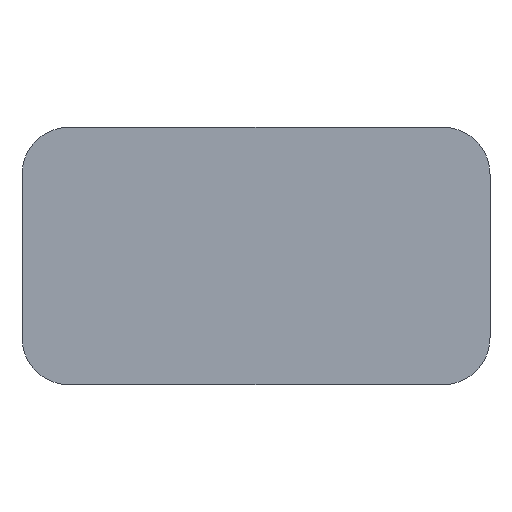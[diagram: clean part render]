
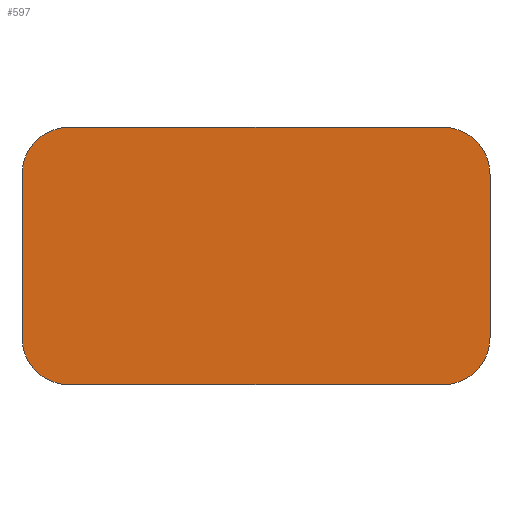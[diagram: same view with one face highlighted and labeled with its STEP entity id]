
A CAD part, front view. The second image highlights one B-rep face of the part: STEP entity #597.
In plain terms, the highlighted planar face has unit normal (0, -1, 0).
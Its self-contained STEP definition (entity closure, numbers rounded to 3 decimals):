
#7 = EDGE_LOOP ( 'NONE', ( #694, #297, #90, #897, #350, #529, #685, #186 ) ) ;
#16 = VERTEX_POINT ( 'NONE', #475 ) ;
#21 = EDGE_CURVE ( 'NONE', #58, #222, #907, .T. ) ;
#52 = AXIS2_PLACEMENT_3D ( 'NONE', #615, #769, #557 ) ;
#58 = VERTEX_POINT ( 'NONE', #189 ) ;
#77 = EDGE_CURVE ( 'NONE', #16, #102, #632, .T. ) ;
#90 = ORIENTED_EDGE ( 'NONE', *, *, #156, .F. ) ;
#93 = EDGE_CURVE ( 'NONE', #16, #668, #829, .T. ) ;
#101 = DIRECTION ( 'NONE',  ( 0., 0., -1. ) ) ;
#102 = VERTEX_POINT ( 'NONE', #243 ) ;
#112 = CARTESIAN_POINT ( 'NONE',  ( -10., -20., 5.5 ) ) ;
#156 = EDGE_CURVE ( 'NONE', #58, #668, #348, .T. ) ;
#169 = CARTESIAN_POINT ( 'NONE',  ( -8., -20., 3.5 ) ) ;
#172 = DIRECTION ( 'NONE',  ( 0., -1., 0. ) ) ;
#186 = ORIENTED_EDGE ( 'NONE', *, *, #650, .T. ) ;
#189 = CARTESIAN_POINT ( 'NONE',  ( -10., -20., -3.5 ) ) ;
#200 = LINE ( 'NONE', #495, #517 ) ;
#215 = PLANE ( 'NONE',  #665 ) ;
#222 = VERTEX_POINT ( 'NONE', #366 ) ;
#237 = DIRECTION ( 'NONE',  ( 0., 0., -1. ) ) ;
#243 = CARTESIAN_POINT ( 'NONE',  ( 8., -20., 5.5 ) ) ;
#258 = DIRECTION ( 'NONE',  ( 1., 0., 0. ) ) ;
#263 = CARTESIAN_POINT ( 'NONE',  ( 10., -20., 5.5 ) ) ;
#297 = ORIENTED_EDGE ( 'NONE', *, *, #93, .T. ) ;
#309 = DIRECTION ( 'NONE',  ( 0., -1., 0. ) ) ;
#348 = LINE ( 'NONE', #112, #399 ) ;
#350 = ORIENTED_EDGE ( 'NONE', *, *, #759, .F. ) ;
#366 = CARTESIAN_POINT ( 'NONE',  ( -8., -20., -5.5 ) ) ;
#387 = CARTESIAN_POINT ( 'NONE',  ( 8., -20., 3.5 ) ) ;
#399 = VECTOR ( 'NONE', #816, 1000. ) ;
#415 = EDGE_CURVE ( 'NONE', #649, #786, #863, .T. ) ;
#425 = DIRECTION ( 'NONE',  ( -1., 0., 0. ) ) ;
#429 = CARTESIAN_POINT ( 'NONE',  ( 8., -20., -3.5 ) ) ;
#461 = CARTESIAN_POINT ( 'NONE',  ( 10., -20., 3.5 ) ) ;
#464 = VECTOR ( 'NONE', #258, 1000. ) ;
#475 = CARTESIAN_POINT ( 'NONE',  ( -8., -20., 5.5 ) ) ;
#495 = CARTESIAN_POINT ( 'NONE',  ( -10., -20., -5.5 ) ) ;
#517 = VECTOR ( 'NONE', #425, 1000. ) ;
#525 = EDGE_CURVE ( 'NONE', #728, #786, #544, .T. ) ;
#529 = ORIENTED_EDGE ( 'NONE', *, *, #525, .T. ) ;
#531 = AXIS2_PLACEMENT_3D ( 'NONE', #169, #776, #689 ) ;
#544 = CIRCLE ( 'NONE', #695, 2. ) ;
#557 = DIRECTION ( 'NONE',  ( 0., 0., -1. ) ) ;
#590 = CARTESIAN_POINT ( 'NONE',  ( 10., -20., -3.5 ) ) ;
#597 = ADVANCED_FACE ( 'NONE', ( #988 ), #215, .T. ) ;
#607 = AXIS2_PLACEMENT_3D ( 'NONE', #387, #309, #687 ) ;
#615 = CARTESIAN_POINT ( 'NONE',  ( -8., -20., -3.5 ) ) ;
#617 = VECTOR ( 'NONE', #101, 1000. ) ;
#632 = LINE ( 'NONE', #847, #464 ) ;
#649 = VERTEX_POINT ( 'NONE', #461 ) ;
#650 = EDGE_CURVE ( 'NONE', #649, #102, #817, .T. ) ;
#658 = DIRECTION ( 'NONE',  ( 0., -1., 0. ) ) ;
#665 = AXIS2_PLACEMENT_3D ( 'NONE', #684, #172, #237 ) ;
#667 = DIRECTION ( 'NONE',  ( 0., 0., -1. ) ) ;
#668 = VERTEX_POINT ( 'NONE', #926 ) ;
#684 = CARTESIAN_POINT ( 'NONE',  ( 0., -20., 0. ) ) ;
#685 = ORIENTED_EDGE ( 'NONE', *, *, #415, .F. ) ;
#687 = DIRECTION ( 'NONE',  ( 0., 0., -1. ) ) ;
#689 = DIRECTION ( 'NONE',  ( 0., 0., -1. ) ) ;
#694 = ORIENTED_EDGE ( 'NONE', *, *, #77, .F. ) ;
#695 = AXIS2_PLACEMENT_3D ( 'NONE', #429, #658, #667 ) ;
#728 = VERTEX_POINT ( 'NONE', #869 ) ;
#759 = EDGE_CURVE ( 'NONE', #728, #222, #200, .T. ) ;
#769 = DIRECTION ( 'NONE',  ( 0., -1., 0. ) ) ;
#776 = DIRECTION ( 'NONE',  ( 0., -1., 0. ) ) ;
#786 = VERTEX_POINT ( 'NONE', #590 ) ;
#816 = DIRECTION ( 'NONE',  ( 0., 0., 1. ) ) ;
#817 = CIRCLE ( 'NONE', #607, 2. ) ;
#829 = CIRCLE ( 'NONE', #531, 2. ) ;
#847 = CARTESIAN_POINT ( 'NONE',  ( -10., -20., 5.5 ) ) ;
#863 = LINE ( 'NONE', #263, #617 ) ;
#869 = CARTESIAN_POINT ( 'NONE',  ( 8., -20., -5.5 ) ) ;
#897 = ORIENTED_EDGE ( 'NONE', *, *, #21, .T. ) ;
#907 = CIRCLE ( 'NONE', #52, 2. ) ;
#926 = CARTESIAN_POINT ( 'NONE',  ( -10., -20., 3.5 ) ) ;
#988 = FACE_OUTER_BOUND ( 'NONE', #7, .T. ) ;
